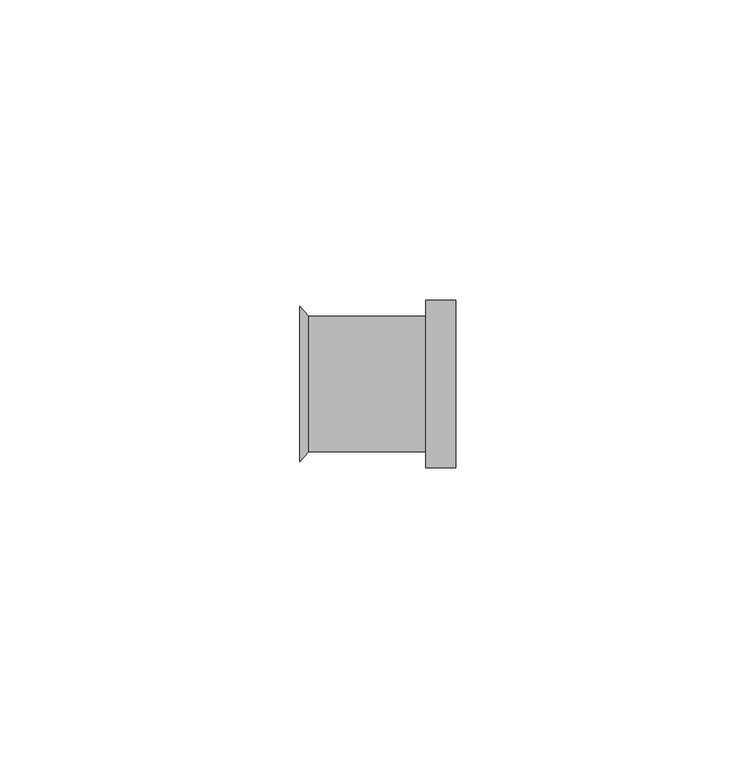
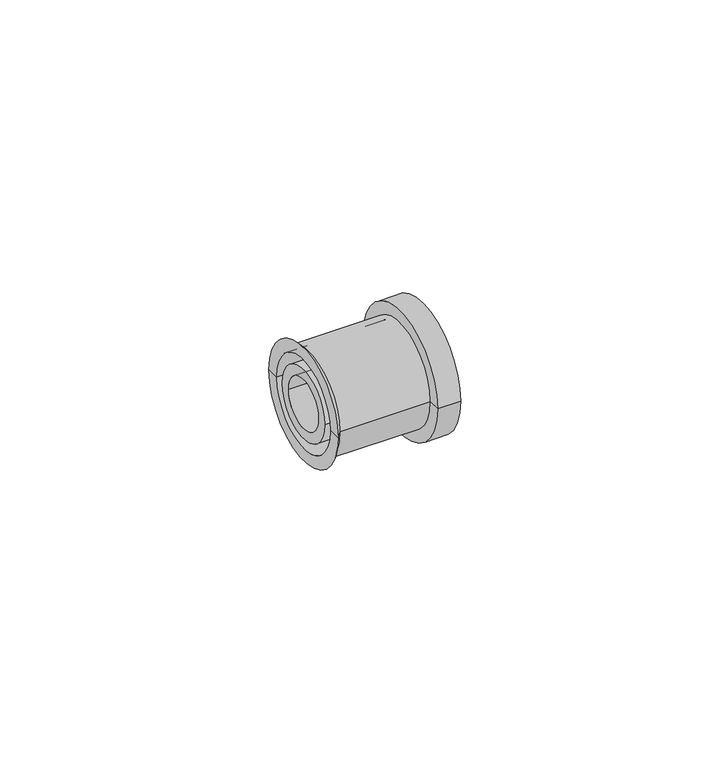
"""IFC4 building model written with IfcOpenShell, lengths in millimetres: pipe fitting geometry, AmancoWavin_Unionesdetubería_TigrisFlexZNoUsarCampana : Tigris K5."""

import ifcopenshell
import ifcopenshell.guid

model = None  # the IFC model being written
_history = None  # IfcOwnerHistory: only IFC2X3 demands one
_inside = {}  # id of a spatial element -> (the spatial element, [elements in it])
_under = {}  # id of a project, library or spatial element -> (it, [spatial elements below it])
_declared = {}  # id of a project -> (the project, [libraries it declares])
_typed = {}  # id of a type object -> (the type object, [elements of that type])
_made_of = {}  # id of a material, layer set ... -> (it, [elements and type objects made of it])


def new_model(schema):
    """Start an empty IFC model of exactly this schema.

    Asked for "IFC4X3", IfcOpenShell would pick the latest addendum, in which some entities
    have other attributes; the version numbers below select the first issue.
    IFC2X3 requires an IfcOwnerHistory on every rooted entity: one is made here for all.
    """
    global model, _history
    if schema == "IFC4X3":
        model = ifcopenshell.file(schema_version=(4, 3, 0, 0))
    else:
        model = ifcopenshell.file(schema=schema)
    _inside.clear()
    _under.clear()
    _declared.clear()
    _typed.clear()
    _made_of.clear()
    _history = None
    if model.schema == "IFC2X3":
        org = make("IfcOrganization", Name="unknown")
        user = make(
            "IfcPersonAndOrganization",
            ThePerson=make("IfcPerson", FamilyName="unknown"),
            TheOrganization=org,
        )
        app = make(
            "IfcApplication",
            ApplicationDeveloper=org,
            Version="unknown",
            ApplicationFullName="unknown",
            ApplicationIdentifier="unknown",
        )
        _history = make(
            "IfcOwnerHistory",
            OwningUser=user,
            OwningApplication=app,
            ChangeAction="ADDED",
            CreationDate=0,
        )
    return model


def make(cls, **values):
    """One entity of the class cls with the attributes given. An attribute that is None is left unset."""
    return model.create_entity(
        cls, **{name: value for name, value in values.items() if value is not None}
    )


def rooted(cls, **values):
    """An entity with a GlobalId (a new one), such as an element, a storey or a relation."""
    return make(cls, GlobalId=ifcopenshell.guid.new(), OwnerHistory=_history, **values)


def si_unit(unit_type, name, prefix=None):
    """IfcSIUnit, for example si_unit("LENGTHUNIT", "METRE", prefix="MILLI")."""
    return make("IfcSIUnit", UnitType=unit_type, Prefix=prefix, Name=name)


def assignment(units):
    """IfcUnitAssignment: the units of a project."""
    return None if units is None else make("IfcUnitAssignment", Units=units)


def point(xyz):
    """IfcCartesianPoint."""
    return None if xyz is None else make("IfcCartesianPoint", Coordinates=xyz)


def direction(xyz):
    """IfcDirection."""
    return None if xyz is None else make("IfcDirection", DirectionRatios=xyz)


def frame(location, z_axis=None, x_axis=None):
    """IfcAxis2Placement3D, a coordinate frame: its origin and axes. An axis left out is left unset."""
    return make(
        "IfcAxis2Placement3D",
        Location=point(location),
        Axis=direction(z_axis),
        RefDirection=direction(x_axis),
    )


def frame_2d(location, x_axis=None):
    """IfcAxis2Placement2D, a coordinate frame in the plane: its origin and x axis."""
    return make(
        "IfcAxis2Placement2D", Location=point(location), RefDirection=direction(x_axis)
    )


def origin():
    """The frame at (0, 0, 0) with its axes left unset."""
    return frame((0.0, 0.0, 0.0))


def origin_2d():
    """The frame at (0, 0) in the plane with its x axis left unset."""
    return frame_2d((0.0, 0.0))


def place(relative_to, where):
    """IfcLocalPlacement: puts the frame where relative to a parent placement (None: the world)."""
    return make(
        "IfcLocalPlacement", PlacementRelTo=relative_to, RelativePlacement=where
    )


def context(
    kind, dimensions, precision=None, world=None, true_north=None, identifier=None
):
    """IfcGeometricRepresentationContext, for example the 3D "Model" context."""
    return make(
        "IfcGeometricRepresentationContext",
        ContextIdentifier=identifier,
        ContextType=kind,
        CoordinateSpaceDimension=dimensions,
        Precision=precision,
        WorldCoordinateSystem=world,
        TrueNorth=true_north,
    )


def project(units=None, contexts=None):
    """IfcProject with its units and contexts."""
    return rooted(
        "IfcProject",
        Name="project",
        RepresentationContexts=contexts,
        UnitsInContext=assignment(units),
    )


def spatial(cls, under=None, at=None, **own):
    """A site, building, storey or space (cls), placed at a placement, below another one or the project."""
    s = rooted(cls, ObjectPlacement=at, **own)
    if under is not None:
        _under.setdefault(under.id(), (under, []))[1].append(s)
    return s


def polyline(points):
    """IfcPolyline through the points."""
    return make("IfcPolyline", Points=[point(p) for p in points])


def circle_curve(where, radius):
    """IfcCircle in the frame where."""
    return make("IfcCircle", Position=where, Radius=radius)


def trimmed(basis, trim1, trim2, sense, master):
    """IfcTrimmedCurve: the piece of a basis curve between two trims."""
    return make(
        "IfcTrimmedCurve",
        BasisCurve=basis,
        Trim1=trim1,
        Trim2=trim2,
        SenseAgreement=sense,
        MasterRepresentation=master,
    )


def segment(curve, same_sense, transition):
    """IfcCompositeCurveSegment."""
    return make(
        "IfcCompositeCurveSegment",
        Transition=transition,
        SameSense=same_sense,
        ParentCurve=curve,
    )


def composite_curve(segments, self_intersect=None):
    """IfcCompositeCurve: segments joined end to end."""
    return make("IfcCompositeCurve", Segments=segments, SelfIntersect=self_intersect)


def outline(outer, holes=None, kind="AREA"):
    """IfcArbitraryClosedProfileDef: a profile drawn as a closed curve; with holes, ...WithVoids."""
    if holes is None:
        return make("IfcArbitraryClosedProfileDef", ProfileType=kind, OuterCurve=outer)
    return make(
        "IfcArbitraryProfileDefWithVoids",
        ProfileType=kind,
        OuterCurve=outer,
        InnerCurves=holes,
    )


def extrude(swept, where, along, depth):
    """IfcExtrudedAreaSolid: the profile swept, set in the frame where, extruded along a direction by depth."""
    return make(
        "IfcExtrudedAreaSolid",
        SweptArea=swept,
        Position=where,
        ExtrudedDirection=direction(along),
        Depth=depth,
    )


def shape(context_of_items, identifier, shape_type, items):
    """IfcShapeRepresentation: the items that make up one representation, for example the "Body"."""
    return make(
        "IfcShapeRepresentation",
        ContextOfItems=context_of_items,
        RepresentationIdentifier=identifier,
        RepresentationType=shape_type,
        Items=items,
    )


def source(mapping_origin, context_of_items, identifier, shape_type, items):
    """IfcRepresentationMap: a shape defined once, which mapped items show again and again."""
    return make(
        "IfcRepresentationMap",
        MappingOrigin=mapping_origin,
        MappedRepresentation=shape(context_of_items, identifier, shape_type, items),
    )


def transform(
    local_origin,
    x_axis=None,
    y_axis=None,
    z_axis=None,
    scale=None,
    scale2=None,
    scale3=None,
    uniform=True,
):
    """IfcCartesianTransformationOperator3D, or its non-uniform kind. x_axis, y_axis, z_axis: its Axis1, 2, 3."""
    if uniform:
        return make(
            "IfcCartesianTransformationOperator3D",
            Axis1=direction(x_axis),
            Axis2=direction(y_axis),
            LocalOrigin=point(local_origin),
            Scale=scale,
            Axis3=direction(z_axis),
        )
    return make(
        "IfcCartesianTransformationOperator3DnonUniform",
        Axis1=direction(x_axis),
        Axis2=direction(y_axis),
        LocalOrigin=point(local_origin),
        Scale=scale,
        Axis3=direction(z_axis),
        Scale2=scale2,
        Scale3=scale3,
    )


def mapped(mapping_source, mapping_target):
    """IfcMappedItem: shows the shape of a source again, moved by a transform."""
    return make(
        "IfcMappedItem", MappingSource=mapping_source, MappingTarget=mapping_target
    )


def made_of(thing, what):
    """Note that an element or type object is made of a material, layer set ...; save() writes the relation."""
    if what is not None:
        _made_of.setdefault(what.id(), (what, []))[1].append(thing)
    return thing


def element(
    cls,
    number,
    at=None,
    inside=None,
    cuts=None,
    type_object=None,
    material=None,
    context=None,
    identifier="Body",
    shape_type=None,
    held_by="IfcProductDefinitionShape",
    body=None,
    shapes=None,
    **own,
):
    """One element of the class cls, such as IfcWall. Its Tag is "e" and its number.

    at: its placement. inside: the storey or other place that contains it. cuts: it is an
    opening in that element (IfcRelVoidsElement). A single representation is given by context,
    identifier, shape_type and body (its items); several are given by shapes. held_by: the class
    of the entity that holds the representations. save() writes the other relations.
    """
    e = rooted(cls, Tag="e%d" % number, ObjectPlacement=at, **own)
    if body is not None:
        shapes = [shape(context, identifier, shape_type, body)]
    if shapes is not None:
        e.Representation = make(held_by, Representations=shapes)
    if inside is not None:
        _inside.setdefault(inside.id(), (inside, []))[1].append(e)
    if cuts is not None:
        rooted(
            "IfcRelVoidsElement", RelatingBuildingElement=cuts, RelatedOpeningElement=e
        )
    if type_object is not None:
        _typed.setdefault(type_object.id(), (type_object, []))[1].append(e)
    return made_of(e, material)


def aggregate(whole, parts):
    """IfcRelAggregates: a whole, such as a stair, and the parts it consists of."""
    return rooted("IfcRelAggregates", RelatingObject=whole, RelatedObjects=parts)


def save(model, path):
    """Write the relations noted so far, then the file.

    IfcRelAggregates (storeys below a building ...), IfcRelContainedInSpatialStructure (elements
    in a storey), IfcRelDefinesByType, IfcRelAssociatesMaterial and IfcRelDeclares: one each for
    every whole, place, type object, material and project.
    """
    for whole, parts in _under.values():
        aggregate(whole, parts)
    for where, things in _inside.values():
        rooted(
            "IfcRelContainedInSpatialStructure",
            RelatedElements=things,
            RelatingStructure=where,
        )
    for kind, things in _typed.values():
        rooted("IfcRelDefinesByType", RelatedObjects=things, RelatingType=kind)
    for what, things in _made_of.values():
        rooted("IfcRelAssociatesMaterial", RelatedObjects=things, RelatingMaterial=what)
    for by, libraries in _declared.values():
        rooted("IfcRelDeclares", RelatingContext=by, RelatedDefinitions=libraries)
    model.write(path)


def plane_surface(at):
    """IfcPlane: the flat surface through the origin of the frame at, square to its z axis."""
    return make("IfcPlane", Position=at)


def cylinder_surface(at, radius):
    """IfcCylindricalSurface: all points at the distance radius from the z axis of the frame at."""
    return make("IfcCylindricalSurface", Position=at, Radius=radius)


def revolved_surface(curve, axis_point, axis_direction):
    """IfcSurfaceOfRevolution: the curve turned about the line through axis_point along axis_direction."""
    return make(
        "IfcSurfaceOfRevolution",
        SweptCurve=make("IfcArbitraryOpenProfileDef", ProfileType="CURVE", Curve=curve),
        AxisPosition=make("IfcAxis1Placement", Location=point(axis_point), Axis=direction(axis_direction)),
    )


def advanced_brep(points, edges, surfaces, faces):
    """IfcAdvancedBrep: a solid bounded by faces that lie on surfaces and meet in shared edges.

    An edge is (start, end): straight between two places in points (the first is 0);
    or (start, end, curve); or (start, end, curve, False) where it runs against its curve.
    A face is (place in surfaces, loops), or (place, loops, False) where it looks against
    its surface's normal. A loop lists edges by number (the first is 1), with a minus sign
    where the edge is run from its end to its start. The first loop is the outer one.
    """
    corners = [point(p) for p in points]
    vertices = [make("IfcVertexPoint", VertexGeometry=c) for c in corners]
    made = []
    for start, end, *more in edges:
        made.append(
            make(
                "IfcEdgeCurve",
                EdgeStart=vertices[start],
                EdgeEnd=vertices[end],
                EdgeGeometry=more[0] if more else make("IfcPolyline", Points=[corners[start], corners[end]]),
                SameSense=more[1] if len(more) > 1 else True,
            )
        )
    hull = []
    for where, loops, *sense in faces:
        bounds = []
        for j, loop in enumerate(loops):
            ring = [make("IfcOrientedEdge", EdgeElement=made[abs(k) - 1], Orientation=k > 0) for k in loop]
            bounds.append(
                make(
                    "IfcFaceOuterBound" if j == 0 else "IfcFaceBound",
                    Bound=make("IfcEdgeLoop", EdgeList=ring),
                    Orientation=True,
                )
            )
        hull.append(make("IfcAdvancedFace", Bounds=bounds, FaceSurface=surfaces[where], SameSense=sense[0] if sense else True))
    return make("IfcAdvancedBrep", Outer=make("IfcClosedShell", CfsFaces=hull))


def pipe_fitting_0048f4e8(model_context):
    return source(origin(), model_context, "Body", "SolidModel", [
        advanced_brep(
        [(-5.0, -11.3, 0.0), (-5.0, 11.3, 0.0), (-5.0, 14.0, 0.0), (-5.0, -14.0, 0.0), (-24.5489984, -11.3, 0.0), (-24.5489984, 11.3, 0.0), (-26.0, -10.2, 0.0), (-26.0, 10.2, 0.0), (-26.0, 12.975, 0.0), (-26.0, -12.975, 0.0), (-5.0, -10.2, 0.0), (-5.0, 10.2, 0.0), (-5.0, 0.0, 0.0), (0.0, -14.0, 0.0), (0.0, 14.0, 0.0), (0.0, 0.0, 0.0)],
        [
            (0, 1, circle_curve(frame((-5.0, 0.0, 0.0), z_axis=(1.0, 0.0, 0.0), x_axis=(0.0, 1.0, 0.0)), 11.3)),
            (1, 2),
            (2, 3, circle_curve(frame((-5.0, 0.0, 0.0), z_axis=(-1.0, 0.0, 0.0), x_axis=(0.0, 1.0, 0.0)), 14.0)),
            (3, 0),
            (1, 0, circle_curve(frame((-5.0, 0.0, 0.0), z_axis=(1.0, 0.0, 0.0), x_axis=(0.0, 1.0, 0.0)), 11.3)),
            (3, 2, circle_curve(frame((-5.0, 0.0, 0.0), z_axis=(-1.0, 0.0, 0.0), x_axis=(0.0, 1.0, 0.0)), 14.0)),
            (4, 5, circle_curve(frame((-24.5489984, 0.0, 0.0), z_axis=(1.0, 0.0, 0.0), x_axis=(0.0, 1.0, 0.0)), 11.3)),
            (5, 1),
            (0, 4),
            (5, 4, circle_curve(frame((-24.5489984, 0.0, 0.0), z_axis=(1.0, 0.0, 0.0), x_axis=(0.0, 1.0, 0.0)), 11.3)),
            (6, 7, circle_curve(frame((-26.0, 0.0, 0.0), z_axis=(1.0, 0.0, 0.0), x_axis=(0.0, 1.0, 0.0)), 10.2)),
            (7, 8),
            (8, 9, circle_curve(frame((-26.0, 0.0, 0.0), z_axis=(-1.0, 0.0, 0.0), x_axis=(0.0, 1.0, 0.0)), 12.975)),
            (9, 6),
            (7, 6, circle_curve(frame((-26.0, 0.0, 0.0), z_axis=(1.0, 0.0, 0.0), x_axis=(0.0, 1.0, 0.0)), 10.2)),
            (9, 8, circle_curve(frame((-26.0, 0.0, 0.0), z_axis=(-1.0, 0.0, 0.0), x_axis=(0.0, 1.0, 0.0)), 12.975)),
            (10, 11, circle_curve(frame((-5.0, 0.0, 0.0), z_axis=(1.0, 0.0, 0.0), x_axis=(0.0, 1.0, 0.0)), 10.2)),
            (11, 7),
            (6, 10),
            (11, 10, circle_curve(frame((-5.0, 0.0, 0.0), z_axis=(1.0, 0.0, 0.0), x_axis=(0.0, 1.0, 0.0)), 10.2)),
            (12, 11),
            (10, 12),
            (13, 14, circle_curve(frame((0.0, 0.0, 0.0), z_axis=(1.0, 0.0, 0.0), x_axis=(0.0, 1.0, 0.0)), 14.0)),
            (14, 15),
            (15, 13),
            (14, 13, circle_curve(frame((0.0, 0.0, 0.0), z_axis=(1.0, 0.0, 0.0), x_axis=(0.0, 1.0, 0.0)), 14.0)),
            (2, 14),
            (13, 3),
            (8, 5),
            (4, 9),
        ],
        [
            plane_surface(frame((-5.0, 0.0, 0.0), z_axis=(-1.0, 0.0, 0.0), x_axis=(0.0, 1.0, 0.0))),
            cylinder_surface(frame((1999.0, 0.0, 0.0), z_axis=(-1.0, 0.0, 0.0), x_axis=(0.0, 1.0, 0.0)), 11.3),
            plane_surface(frame((-26.0, 0.0, 0.0), z_axis=(-1.0, 0.0, 0.0), x_axis=(0.0, 1.0, 0.0))),
            revolved_surface(polyline([(-26.0, 10.2, 0.0), (-5.0, 10.2, 0.0)]), (1999.0, 0.0, 0.0), (-1.0, 0.0, 0.0)),
            plane_surface(frame((0.0, 0.0, 0.0), z_axis=(1.0, 0.0, 0.0), x_axis=(0.0, 1.0, 0.0))),
            cylinder_surface(frame((1999.0, 0.0, 0.0), z_axis=(-1.0, 0.0, 0.0), x_axis=(0.0, 1.0, 0.0)), 14.0),
            revolved_surface(polyline([(-24.5489984, 11.3, 0.0), (-26.0, 12.975, 0.0)]), (1999.0, 0.0, 0.0), (-1.0, 0.0, 0.0)),
        ],
        [
            (0, [[1, 2, 3, 4]]),
            (0, [[5, -4, 6, -2]]),
            (1, [[7, 8, -1, 9]]),
            (1, [[10, -9, -5, -8]]),
            (2, [[11, 12, 13, 14]]),
            (2, [[15, -14, 16, -12]]),
            (3, [[17, 18, -11, 19]]),
            (3, [[20, -19, -15, -18]]),
            (0, [[21, -17, 22]]),
            (0, [[-22, -20, -21]]),
            (4, [[23, 24, 25]]),
            (4, [[26, -25, -24]]),
            (5, [[-3, 27, -23, 28]]),
            (5, [[-6, -28, -26, -27]]),
            (6, [[-13, 29, -7, 30]]),
            (6, [[-16, -30, -10, -29]]),
        ],
    ),
        extrude(outline(composite_curve([segment(trimmed(circle_curve(origin_2d(), 7.9), [point((-7.9, 0.0))], [point((7.9, 0.0))], False, "CARTESIAN"), True, "CONTINUOUS"), segment(trimmed(circle_curve(origin_2d(), 7.9), [point((7.9, 0.0))], [point((-7.9, 0.0))], False, "CARTESIAN"), True, "CONTINUOUS")], self_intersect=False), holes=[composite_curve([segment(trimmed(circle_curve(origin_2d(), 5.6), [point((-5.6, 0.0))], [point((5.6, 0.0))], True, "CARTESIAN"), True, "CONTINUOUS"), segment(trimmed(circle_curve(origin_2d(), 5.6), [point((5.6, 0.0))], [point((-5.6, 0.0))], True, "CARTESIAN"), True, "CONTINUOUS")], self_intersect=False)]), frame((-26.0, 0.0, 0.0), z_axis=(1.0, 0.0, 0.0), x_axis=(0.0, 1.0, 0.0)), (0.0, 0.0, 1.0), 26.0),
    ])


if __name__ == "__main__":
    model = new_model("IFC4")
    model_context = context("Model", 3, world=origin())
    ifc_project = project(units=[si_unit("LENGTHUNIT", "METRE", prefix="MILLI")], contexts=[model_context])
    site = spatial("IfcSite", under=ifc_project)
    building = spatial("IfcBuilding", under=site)
    placement = place(None, origin())
    pipe_fitting_shape = pipe_fitting_0048f4e8(model_context)
    element("IfcPipeFitting", 1, ObjectType="AmancoWavin_Unionesdetubería_TigrisFlexZNoUsarCampana : Tigris K5", at=placement, inside=building, context=model_context, shape_type="MappedRepresentation", body=[
        mapped(pipe_fitting_shape, transform((0.0, 0.0, 0.0), x_axis=(1.0, 0.0, 0.0), y_axis=(0.0, 1.0, 0.0), z_axis=(0.0, 0.0, 1.0))),
    ])
    save(model, "model.ifc")
